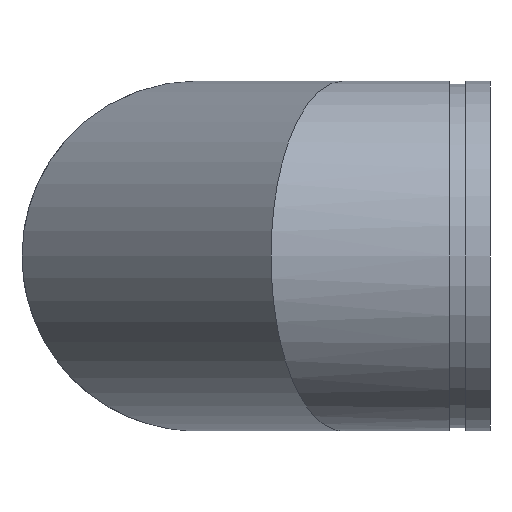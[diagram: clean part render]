
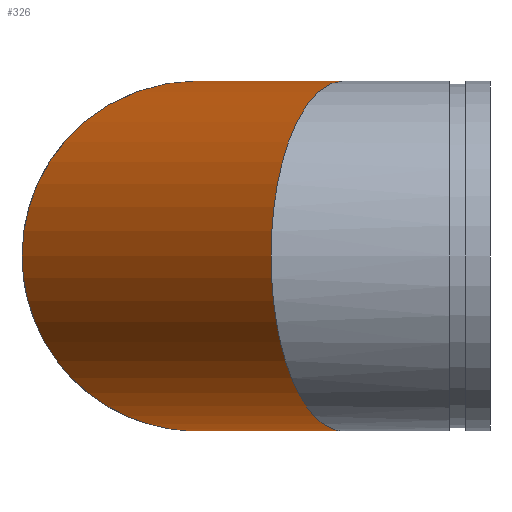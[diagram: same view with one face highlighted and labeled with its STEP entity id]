
A CAD part, left-side view. The second image highlights one B-rep face of the part: STEP entity #326.
In plain terms, the highlighted cylindrical face has radius 136.525 mm (diameter 273.05 mm), a full revolution.
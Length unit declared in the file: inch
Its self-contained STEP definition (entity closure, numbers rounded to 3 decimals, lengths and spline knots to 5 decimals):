
#51=ELLIPSE('',#383,5.81786,5.375);
#52=ELLIPSE('',#384,5.81786,5.375);
#53=ELLIPSE('',#385,5.81786,5.375);
#54=ELLIPSE('',#388,5.81786,5.375);
#55=ELLIPSE('',#389,5.81786,5.375);
#56=ELLIPSE('',#390,5.81786,5.375);
#82=FACE_OUTER_BOUND('',#103,.T.);
#103=EDGE_LOOP('',(#269,#270,#271,#272,#273,#274,#275,#276));
#115=LINE('',#606,#125);
#125=VECTOR('',#494,5.375);
#165=VERTEX_POINT('',#596);
#166=VERTEX_POINT('',#598);
#167=VERTEX_POINT('',#600);
#168=VERTEX_POINT('',#605);
#169=VERTEX_POINT('',#607);
#170=VERTEX_POINT('',#609);
#201=EDGE_CURVE('',#165,#166,#51,.T.);
#202=EDGE_CURVE('',#167,#166,#52,.T.);
#203=EDGE_CURVE('',#167,#165,#53,.T.);
#204=EDGE_CURVE('',#165,#168,#115,.T.);
#205=EDGE_CURVE('',#168,#169,#54,.T.);
#206=EDGE_CURVE('',#170,#169,#55,.T.);
#207=EDGE_CURVE('',#170,#168,#56,.T.);
#269=ORIENTED_EDGE('',*,*,#203,.F.);
#270=ORIENTED_EDGE('',*,*,#202,.T.);
#271=ORIENTED_EDGE('',*,*,#201,.F.);
#272=ORIENTED_EDGE('',*,*,#204,.T.);
#273=ORIENTED_EDGE('',*,*,#205,.T.);
#274=ORIENTED_EDGE('',*,*,#206,.F.);
#275=ORIENTED_EDGE('',*,*,#207,.T.);
#276=ORIENTED_EDGE('',*,*,#204,.F.);
#293=CYLINDRICAL_SURFACE('',#387,5.375);
#326=ADVANCED_FACE('',(#82),#293,.T.);
#383=AXIS2_PLACEMENT_3D('',#599,#484,#485);
#384=AXIS2_PLACEMENT_3D('',#601,#486,#487);
#385=AXIS2_PLACEMENT_3D('',#602,#488,#489);
#387=AXIS2_PLACEMENT_3D('',#604,#492,#493);
#388=AXIS2_PLACEMENT_3D('',#608,#495,#496);
#389=AXIS2_PLACEMENT_3D('',#610,#497,#498);
#390=AXIS2_PLACEMENT_3D('',#611,#499,#500);
#484=DIRECTION('center_axis',(-0.383,-0.924,0.));
#485=DIRECTION('ref_axis',(0.924,-0.383,0.));
#486=DIRECTION('center_axis',(0.383,0.924,0.));
#487=DIRECTION('ref_axis',(0.924,-0.383,0.));
#488=DIRECTION('center_axis',(-0.383,-0.924,0.));
#489=DIRECTION('ref_axis',(0.924,-0.383,0.));
#492=DIRECTION('center_axis',(-0.707,-0.707,0.));
#493=DIRECTION('ref_axis',(0.707,-0.707,0.));
#494=DIRECTION('',(0.707,0.707,0.));
#495=DIRECTION('center_axis',(-0.924,-0.383,0.));
#496=DIRECTION('ref_axis',(0.383,-0.924,0.));
#497=DIRECTION('center_axis',(0.924,0.383,0.));
#498=DIRECTION('ref_axis',(0.383,-0.924,0.));
#499=DIRECTION('center_axis',(-0.924,-0.383,0.));
#500=DIRECTION('ref_axis',(0.383,-0.924,0.));
#596=CARTESIAN_POINT('',(-5.375,-2.2736,0.));
#598=CARTESIAN_POINT('',(0.,-4.5,-5.375));
#599=CARTESIAN_POINT('Origin',(0.,-4.5,
0.));
#600=CARTESIAN_POINT('',(0.,-4.5,5.375));
#601=CARTESIAN_POINT('Origin',(0.,-4.5,0.));
#602=CARTESIAN_POINT('Origin',(0.,-4.5,
0.));
#604=CARTESIAN_POINT('Origin',(4.5,0.,0.));
#605=CARTESIAN_POINT('',(2.2736,5.375,0.));
#606=CARTESIAN_POINT('',(0.6993,3.8007,0.));
#607=CARTESIAN_POINT('',(4.5,0.,-5.375));
#608=CARTESIAN_POINT('Origin',(4.5,0.,0.));
#609=CARTESIAN_POINT('',(4.5,0.,5.375));
#610=CARTESIAN_POINT('Origin',(4.5,0.,0.));
#611=CARTESIAN_POINT('Origin',(4.5,0.,0.));
